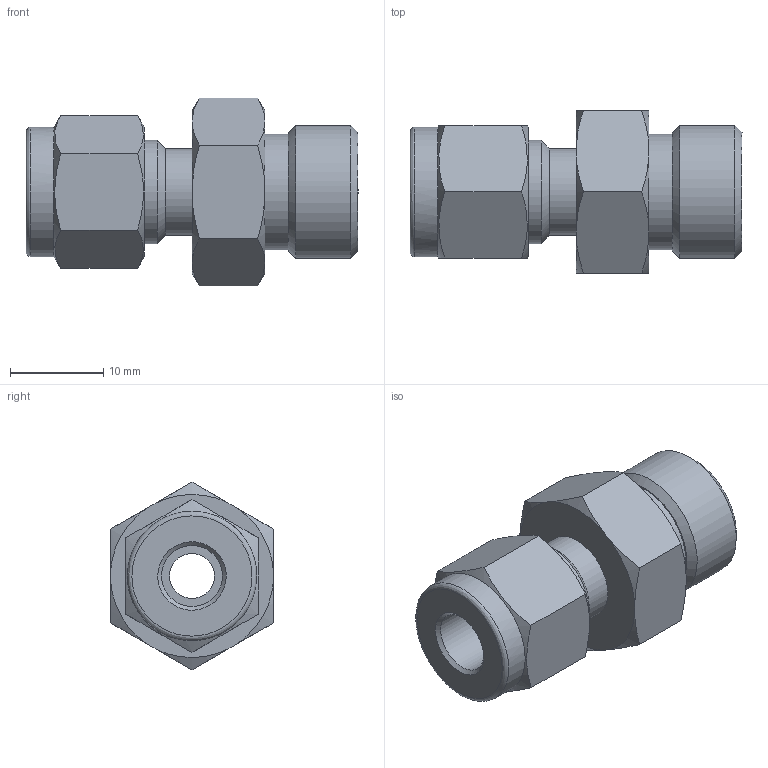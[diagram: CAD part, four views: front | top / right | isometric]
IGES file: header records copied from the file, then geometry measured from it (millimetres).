
Global section: file name: SSMC-4-6U; native system: Autodesk Inventor 2016; preprocessor: unknown; author: DESIGNPC2; date: 20160125.094814; units: millimetre
Bounding box: 35.64 x 17.46 x 20.16 mm (x, y, z)
Volume: 5171.3 mm3; surface area: 2960.8 mm2
Topology: 1 solids, 1 shells, 47 faces, 132 edges, 93 vertices
Faces by surface type: bspline 47
